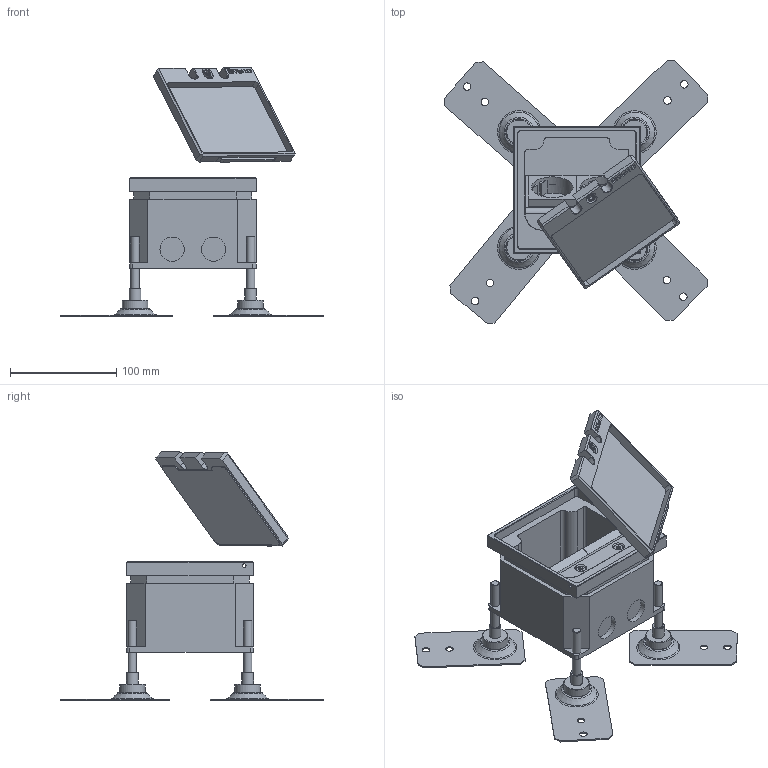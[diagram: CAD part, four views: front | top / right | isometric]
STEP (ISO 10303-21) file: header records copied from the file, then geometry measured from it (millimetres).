
FILE_DESCRIPTION(/* description */ (''),/* implementation_level */ '2;1');
FILE_NAME(/* name */ 'K:\Inventor\Dummy Zeichnungen Bodendosen\4000 Serie\FONTO.4308.OPEN.stp',/* time_stamp */ '2019-05-13T10:31:14+02:00',/* author */ ('mayrhofer'),/* organization */ (''),/* preprocessor_version */ 'ST-DEVELOPER v17.2',/* originating_system */ 'Autodesk Inventor 2019',/* authorisation */ '');
FILE_SCHEMA (('AUTOMOTIVE_DESIGN { 1 0 10303 214 3 1 1 }'));
Length unit declared in the file: millimetre
Products named in the file (8): FONTO.4308; Kokille_42xx43xx; Nivellierfuß; Deckel_4308; Dichtung FONTO 4301; 1533631_3DINV; 309.LEG.45°.BS.MOSAIC.WEISS.2MOD.; BS 4183 - M5 x 6
Assembly tree (12 placements, depth 2):
  FONTO.4308
    Kokille_42xx43xx
    Nivellierfuß  x4
    Deckel_4308
    Dichtung FONTO 4301
    1533631_3DINV
    309.LEG.45°.BS.MOSAIC.WEISS.2MOD.  x2
    BS 4183 - M5 x 6  x2
Bounding box: 247.92 x 247.74 x 233.92 mm (x, y, z)
Volume: 695755.3 mm3; surface area: 243895.7 mm2
Topology: 12 solids, 12 shells, 601 faces, 1514 edges, 990 vertices
Faces by surface type: plane 352, cylinder 141, cone 52, torus 37, bspline 15, sphere 4
Full cylindrical faces by diameter (mm): 0.1 x2, 3.5 x14, 4.019 x2, 5 x6, 6 x2, 6.647 x4, 6.7 x1, 7 x8, 8 x4, 8.75 x2, 11 x4, 22.835 x2, 24 x4, 39 x2
Entity records: 13014 total; most frequent: CARTESIAN_POINT 2668, ORIENTED_EDGE 2072, DIRECTION 2060, EDGE_CURVE 1036, AXIS2_PLACEMENT_3D 692, VERTEX_POINT 679, LINE 676, VECTOR 676
